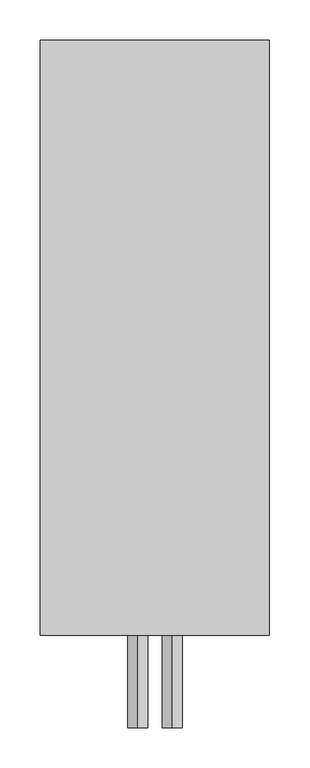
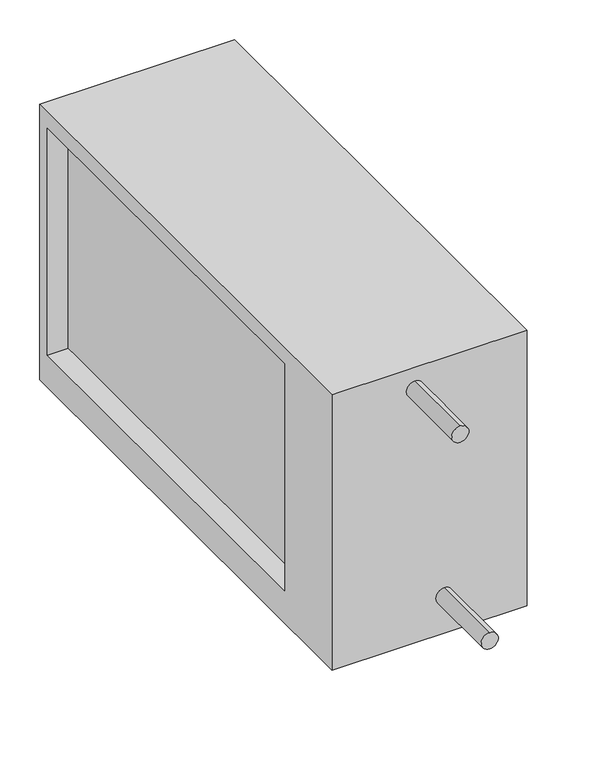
"""IFC4 building model written with IfcOpenShell, lengths in millimetres: proxy geometry, СВ_ВоздухоохладительВодяной_КанальныйПрямоугольный_200-1000_SPC-W : SPC-W-600x350-R."""

from ifc_helpers import new_model, si_unit, point, frame, frame_2d, origin, place, context, project, spatial, polyline, circle_curve, trimmed, segment, composite_curve, outline, extrude, source, transform, mapped, element, save


def mechanical_equipment_4444cef8(model_context):
    return source(origin(), model_context, "Body", "SweptSolid", [
        extrude(outline(polyline([(-420.0, -225.0), (-420.0, 200.0), (320.0, 200.0), (320.0, -225.0), (-420.0, -225.0)]), holes=[polyline([(-300.0, 175.0), (-300.0, -175.0), (300.0, -175.0), (300.0, 175.0), (-300.0, 175.0)])]), frame((-142.5, 0.0, 0.0), z_axis=(1.0, 0.0, 0.0), x_axis=(0.0, 1.0, 0.0)), (0.0, 0.0, 1.0), 285.0),
        extrude(outline(composite_curve([segment(trimmed(circle_curve(frame_2d((-167.0, 21.5)), 12.5), [point((-154.5, 21.5))], [point((-179.5, 21.5))], False, "CARTESIAN"), True, "CONTINUOUS"), segment(trimmed(circle_curve(frame_2d((-167.0, 21.5)), 12.5), [point((-179.5, 21.5))], [point((-154.5, 21.5))], False, "CARTESIAN"), True, "CONTINUOUS")], self_intersect=False)), frame((0.0, -535.0, 0.0), z_axis=(0.0, 1.0, 0.0), x_axis=(0.0, 0.0, 1.0)), (0.0, 0.0, 1.0), 115.0),
        extrude(outline(composite_curve([segment(trimmed(circle_curve(frame_2d((167.0, -21.5)), 12.5), [point((179.5, -21.5))], [point((154.5, -21.5))], False, "CARTESIAN"), True, "CONTINUOUS"), segment(trimmed(circle_curve(frame_2d((167.0, -21.5)), 12.5), [point((154.5, -21.5))], [point((179.5, -21.5))], False, "CARTESIAN"), True, "CONTINUOUS")], self_intersect=False)), frame((0.0, -535.0, 0.0), z_axis=(0.0, 1.0, 0.0), x_axis=(0.0, 0.0, 1.0)), (0.0, 0.0, 1.0), 115.0),
        extrude(outline(composite_curve([segment(trimmed(circle_curve(frame_2d((0.0, -380.0)), 11.0), [point((-11.0, -380.0))], [point((11.0, -380.0))], False, "CARTESIAN"), True, "CONTINUOUS"), segment(trimmed(circle_curve(frame_2d((0.0, -380.0)), 11.0), [point((11.0, -380.0))], [point((-11.0, -380.0))], False, "CARTESIAN"), True, "CONTINUOUS")], self_intersect=False)), frame((0.0, 0.0, -245.0), z_axis=(0.0, 0.0, 1.0), x_axis=(1.0, 0.0, 0.0)), (0.0, 0.0, 1.0), 20.0),
        extrude(outline(polyline([(112.5, 300.0), (112.5, -300.0), (-112.5, -300.0), (-112.5, 300.0), (112.5, 300.0)])), frame((0.0, 0.0, -175.0), z_axis=(0.0, 0.0, 1.0), x_axis=(1.0, 0.0, 0.0)), (0.0, 0.0, 1.0), 350.0),
    ])


if __name__ == "__main__":
    model = new_model("IFC4")
    model_context = context("Model", 3, world=origin())
    ifc_project = project(units=[si_unit("LENGTHUNIT", "METRE", prefix="MILLI")], contexts=[model_context])
    site = spatial("IfcSite", under=ifc_project)
    building = spatial("IfcBuilding", under=site)
    placement = place(None, origin())
    mechanical_equipment_shape = mechanical_equipment_4444cef8(model_context)
    element("IfcBuildingElementProxy", 1, Name="СВ_ВоздухоохладительВодяной_КанальныйПрямоугольный_200-1000_SPC-W : SPC-W-600x350-R", ObjectType="СВ_ВоздухоохладительВодяной_КанальныйПрямоугольный_200-1000_SPC-W : SPC-W-600x350-R", at=placement, inside=building, context=model_context, shape_type="MappedRepresentation", body=[
        mapped(mechanical_equipment_shape, transform((0.0, 0.0, 0.0), x_axis=(1.0, 0.0, 0.0), y_axis=(0.0, 1.0, 0.0), z_axis=(0.0, 0.0, 1.0))),
    ])
    save(model, "model.ifc")
